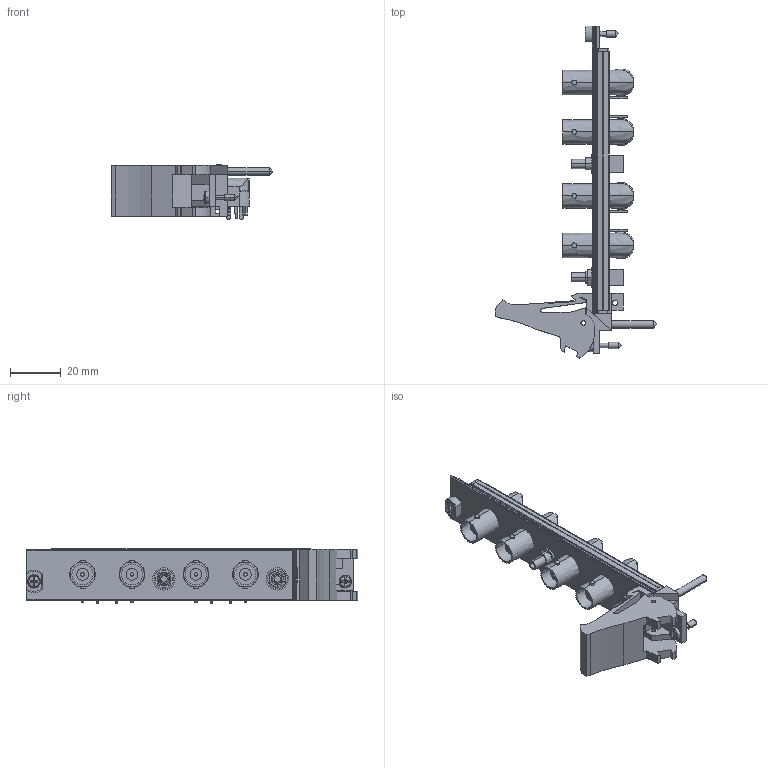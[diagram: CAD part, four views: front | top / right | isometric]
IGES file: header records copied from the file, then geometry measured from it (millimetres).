
Start section:  PTC IGES file: cu_pxi-5900.igs
Global section: file name: cu_pxi-5900.igs; native system: Pro/ENGINEER by Parametric Technology Corporation; preprocessor: 2006080; author: jjorden; organization: Unknown; date: 091231.155103; units: inch
Bounding box: 63.53 x 130.5 x 21.46 mm (x, y, z)
Surface area: 23187.2 mm2 (no closed solid volume)
Topology: 0 solids, 0 shells, 812 faces, 4288 edges, 4284 vertices
Faces by surface type: bspline 515, revolution 297
